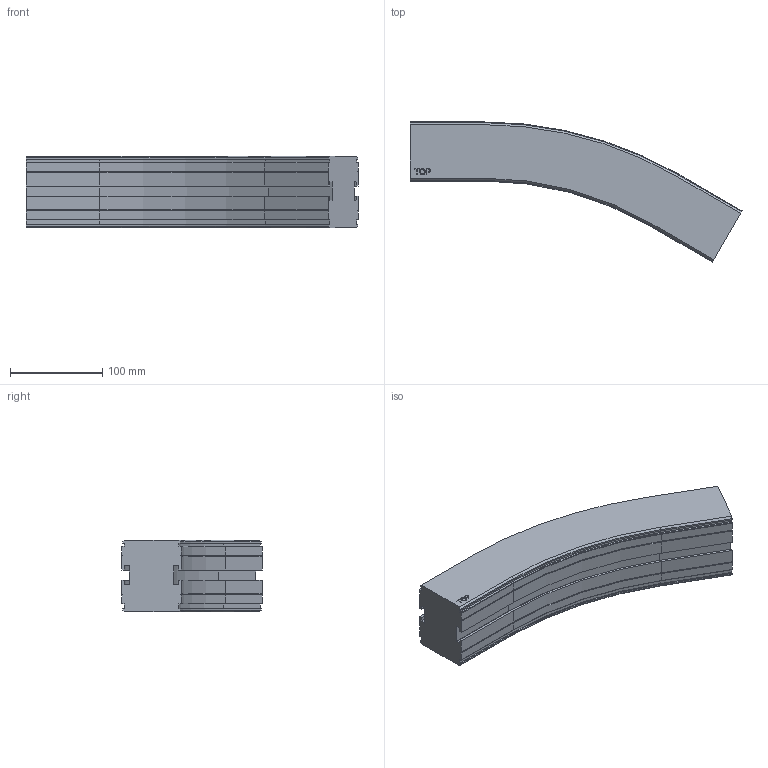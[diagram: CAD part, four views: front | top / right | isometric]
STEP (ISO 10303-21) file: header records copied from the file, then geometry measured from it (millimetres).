
FILE_DESCRIPTION((''),'2;1');
FILE_NAME('C:\Vault Klient\Projekt\Koncept konstruktion\Serie 620 Balk\620-5240.stp','2009-11-26T15:05:08',('Mathias'),(''),'Autodesk Inventor 2010','Autodesk Inventor 2010','');
FILE_SCHEMA(('AUTOMOTIVE_DESIGN { 1 0 10303 214 1 1 1 1 }'));
Length unit declared in the file: millimetre
Products named in the file (1): 620-5240
Bounding box: 359.78 x 151.83 x 78 mm (x, y, z)
Volume: 1691267.1 mm3; surface area: 140420.5 mm2
Topology: 1 solids, 1 shells, 169 faces, 446 edges, 284 vertices
Faces by surface type: plane 109, cylinder 30, bspline 14, cone 12, torus 4
Entity records: 5295 total; most frequent: CARTESIAN_POINT 1094, ORIENTED_EDGE 892, DIRECTION 802, EDGE_CURVE 446, VECTOR 346, LINE 346, VERTEX_POINT 284, AXIS2_PLACEMENT_3D 228
